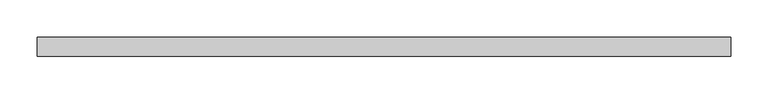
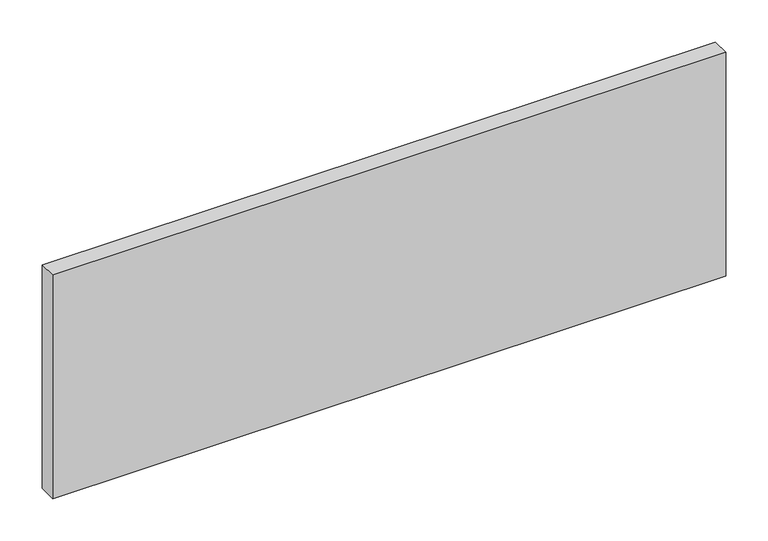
"""IFC4 building model written with IfcOpenShell, lengths in millimetres: plate geometry, Systémový panel : Zasklené."""

from ifc_helpers import new_model, si_unit, origin, origin_with_axes, place, context, project, spatial, polyline, outline, extrude, source, transform, mapped, element, save


def plate_5e06e8b0(model_context):
    return source(origin(), model_context, "Body", "SweptSolid", [
        extrude(outline(polyline([(462.5, 24.5), (-462.5, 24.5), (-462.5, 49.5), (462.5, 49.5), (462.5, 24.5)])), origin_with_axes(), (0.0, 0.0, 1.0), 325.0),
    ])


if __name__ == "__main__":
    model = new_model("IFC4")
    model_context = context("Model", 3, world=origin())
    ifc_project = project(units=[si_unit("LENGTHUNIT", "METRE", prefix="MILLI")], contexts=[model_context])
    site = spatial("IfcSite", under=ifc_project)
    building = spatial("IfcBuilding", under=site)
    placement = place(None, origin())
    plate_shape = plate_5e06e8b0(model_context)
    element("IfcPlate", 1, ObjectType="Systémový panel : Zasklené", at=placement, inside=building, context=model_context, shape_type="MappedRepresentation", body=[
        mapped(plate_shape, transform((0.0, 0.0, 0.0), x_axis=(1.0, 0.0, 0.0), y_axis=(0.0, 1.0, 0.0), z_axis=(0.0, 0.0, 1.0))),
    ])
    save(model, "model.ifc")
